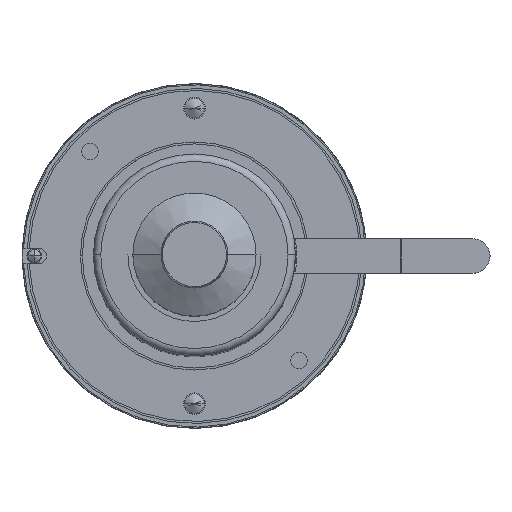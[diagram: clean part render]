
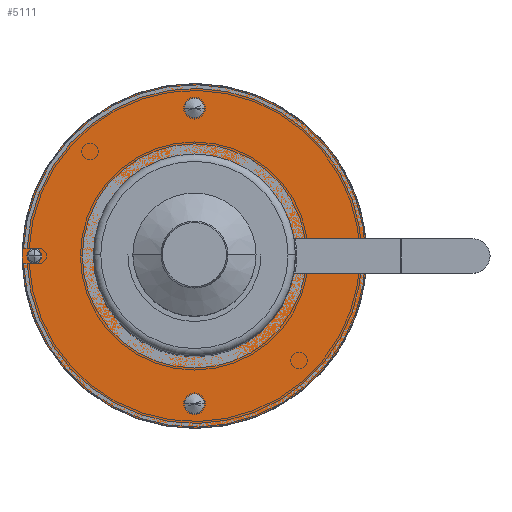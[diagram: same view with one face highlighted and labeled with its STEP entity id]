
A CAD part, top view. The second image highlights one B-rep face of the part: STEP entity #5111.
In plain terms, the highlighted planar face has unit normal (0, 0, 1).
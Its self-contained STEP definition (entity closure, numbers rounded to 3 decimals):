
#2644 = EDGE_CURVE ( 'NONE', #28923, #28746, #24981, .T. ) ;
#4021 = CIRCLE ( 'NONE', #16026, 4. ) ;
#4054 = CIRCLE ( 'NONE', #16045, 3. ) ;
#4058 = LINE ( 'NONE', #12005, #4060 ) ;
#4060 = VECTOR ( 'NONE', #12006, 1000. ) ;
#4075 = CIRCLE ( 'NONE', #16051, 41. ) ;
#4117 = CIRCLE ( 'NONE', #16078, 41. ) ;
#4137 = CIRCLE ( 'NONE', #16090, 70. ) ;
#4179 = CIRCLE ( 'NONE', #16107, 70. ) ;
#4203 = CIRCLE ( 'NONE', #16118, 4. ) ;
#4207 = LINE ( 'NONE', #12293, #4208 ) ;
#4208 = VECTOR ( 'NONE', #12294, 1000. ) ;
#4227 = CIRCLE ( 'NONE', #16129, 3. ) ;
#4513 = CARTESIAN_POINT ( 'NONE',  ( 4., 60., 32. ) ) ;
#5111 = ADVANCED_FACE ( 'NONE', ( #24768, #24769, #24770, #24771 ), #10345, .T. ) ;
#5395 = AXIS2_PLACEMENT_3D ( 'NONE', #10287, #10142, #10106 ) ;
#5960 = EDGE_CURVE ( 'NONE', #28849, #29051, #31834, .T. ) ;
#5966 = EDGE_CURVE ( 'NONE', #28746, #28923, #31841, .T. ) ;
#5990 = EDGE_CURVE ( 'NONE', #28827, #29244, #4021, .T. ) ;
#6013 = EDGE_CURVE ( 'NONE', #28812, #28829, #4054, .T. ) ;
#6017 = EDGE_CURVE ( 'NONE', #28849, #29081, #4058, .T. ) ;
#6026 = EDGE_CURVE ( 'NONE', #29187, #28813, #4075, .T. ) ;
#6058 = EDGE_CURVE ( 'NONE', #28813, #29081, #4117, .T. ) ;
#6075 = EDGE_CURVE ( 'NONE', #28818, #29024, #4137, .T. ) ;
#6124 = EDGE_CURVE ( 'NONE', #29051, #28818, #4179, .T. ) ;
#6144 = EDGE_CURVE ( 'NONE', #29244, #28827, #4203, .T. ) ;
#6147 = EDGE_CURVE ( 'NONE', #29187, #29024, #4207, .T. ) ;
#6159 = EDGE_CURVE ( 'NONE', #28829, #28812, #4227, .T. ) ;
#10106 = DIRECTION ( 'NONE',  ( 0., 1., 0. ) ) ;
#10142 = DIRECTION ( 'NONE',  ( 0., 0., 1. ) ) ;
#10287 = CARTESIAN_POINT ( 'NONE',  ( 0., 25., 32. ) ) ;
#10345 = PLANE ( 'NONE',  #5395 ) ;
#11860 = CARTESIAN_POINT ( 'NONE',  ( 0., 0., 32. ) ) ;
#11861 = DIRECTION ( 'NONE',  ( 0., 0., 1. ) ) ;
#11862 = DIRECTION ( 'NONE',  ( 0., 1., 0. ) ) ;
#11874 = CARTESIAN_POINT ( 'NONE',  ( 0., -60., 32. ) ) ;
#11875 = DIRECTION ( 'NONE',  ( 0., 0., 1. ) ) ;
#11876 = DIRECTION ( 'NONE',  ( -1., 0., 0. ) ) ;
#11935 = CARTESIAN_POINT ( 'NONE',  ( 0., 60., 32. ) ) ;
#11936 = DIRECTION ( 'NONE',  ( 0., 0., -1. ) ) ;
#11937 = DIRECTION ( 'NONE',  ( -1., 0., 0. ) ) ;
#11994 = CARTESIAN_POINT ( 'NONE',  ( -65., 0., 32. ) ) ;
#11995 = DIRECTION ( 'NONE',  ( 0., 0., 1. ) ) ;
#11996 = DIRECTION ( 'NONE',  ( 1., 0., 0. ) ) ;
#12005 = CARTESIAN_POINT ( 'NONE',  ( 0., 7., 32. ) ) ;
#12006 = DIRECTION ( 'NONE',  ( -1., 0., 0. ) ) ;
#12026 = CARTESIAN_POINT ( 'NONE',  ( 0., 0., 32. ) ) ;
#12027 = DIRECTION ( 'NONE',  ( 0., 0., -1. ) ) ;
#12028 = DIRECTION ( 'NONE',  ( -1., 0., 0. ) ) ;
#12122 = CARTESIAN_POINT ( 'NONE',  ( 0., 0., 32. ) ) ;
#12123 = DIRECTION ( 'NONE',  ( 0., 0., -1. ) ) ;
#12124 = DIRECTION ( 'NONE',  ( -1., 0., 0. ) ) ;
#12158 = CARTESIAN_POINT ( 'NONE',  ( 0., 0., 32. ) ) ;
#12159 = DIRECTION ( 'NONE',  ( 0., 0., 1. ) ) ;
#12160 = DIRECTION ( 'NONE',  ( 0., 1., 0. ) ) ;
#12241 = CARTESIAN_POINT ( 'NONE',  ( 0., 0., 32. ) ) ;
#12242 = DIRECTION ( 'NONE',  ( 0., 0., 1. ) ) ;
#12243 = DIRECTION ( 'NONE',  ( 0., 1., 0. ) ) ;
#12285 = CARTESIAN_POINT ( 'NONE',  ( 0., 60., 32. ) ) ;
#12286 = DIRECTION ( 'NONE',  ( 0., 0., -1. ) ) ;
#12287 = DIRECTION ( 'NONE',  ( -1., 0., 0. ) ) ;
#12293 = CARTESIAN_POINT ( 'NONE',  ( 0., -7., 32. ) ) ;
#12294 = DIRECTION ( 'NONE',  ( 1., 0., 0. ) ) ;
#12321 = CARTESIAN_POINT ( 'NONE',  ( -65., 0., 32. ) ) ;
#12322 = DIRECTION ( 'NONE',  ( 0., 0., 1. ) ) ;
#12323 = DIRECTION ( 'NONE',  ( 1., 0., 0. ) ) ;
#16011 = AXIS2_PLACEMENT_3D ( 'NONE', #11860, #11861, #11862 ) ;
#16020 = AXIS2_PLACEMENT_3D ( 'NONE', #11874, #11875, #11876 ) ;
#16026 = AXIS2_PLACEMENT_3D ( 'NONE', #11935, #11936, #11937 ) ;
#16045 = AXIS2_PLACEMENT_3D ( 'NONE', #11994, #11995, #11996 ) ;
#16051 = AXIS2_PLACEMENT_3D ( 'NONE', #12026, #12027, #12028 ) ;
#16078 = AXIS2_PLACEMENT_3D ( 'NONE', #12122, #12123, #12124 ) ;
#16090 = AXIS2_PLACEMENT_3D ( 'NONE', #12158, #12159, #12160 ) ;
#16107 = AXIS2_PLACEMENT_3D ( 'NONE', #12241, #12242, #12243 ) ;
#16118 = AXIS2_PLACEMENT_3D ( 'NONE', #12285, #12286, #12287 ) ;
#16129 = AXIS2_PLACEMENT_3D ( 'NONE', #12321, #12322, #12323 ) ;
#21009 = AXIS2_PLACEMENT_3D ( 'NONE', #30199, #30300, #30220 ) ;
#22086 = EDGE_LOOP ( 'NONE', ( #26714, #26715 ) ) ;
#22109 = EDGE_LOOP ( 'NONE', ( #26684, #26685, #26686, #26687, #26688, #26689, #26690 ) ) ;
#22122 = EDGE_LOOP ( 'NONE', ( #26691, #26692 ) ) ;
#22124 = EDGE_LOOP ( 'NONE', ( #26693, #26694 ) ) ;
#24768 = FACE_BOUND ( 'NONE', #22086, .T. ) ;
#24769 = FACE_OUTER_BOUND ( 'NONE', #22109, .T. ) ;
#24770 = FACE_BOUND ( 'NONE', #22122, .T. ) ;
#24771 = FACE_BOUND ( 'NONE', #22124, .T. ) ;
#24981 = CIRCLE ( 'NONE', #21009, 4. ) ;
#26684 = ORIENTED_EDGE ( 'NONE', *, *, #6017, .F. ) ;
#26685 = ORIENTED_EDGE ( 'NONE', *, *, #5960, .T. ) ;
#26686 = ORIENTED_EDGE ( 'NONE', *, *, #6124, .T. ) ;
#26687 = ORIENTED_EDGE ( 'NONE', *, *, #6075, .T. ) ;
#26688 = ORIENTED_EDGE ( 'NONE', *, *, #6147, .F. ) ;
#26689 = ORIENTED_EDGE ( 'NONE', *, *, #6026, .T. ) ;
#26690 = ORIENTED_EDGE ( 'NONE', *, *, #6058, .T. ) ;
#26691 = ORIENTED_EDGE ( 'NONE', *, *, #6159, .F. ) ;
#26692 = ORIENTED_EDGE ( 'NONE', *, *, #6013, .F. ) ;
#26693 = ORIENTED_EDGE ( 'NONE', *, *, #5966, .F. ) ;
#26694 = ORIENTED_EDGE ( 'NONE', *, *, #2644, .F. ) ;
#26714 = ORIENTED_EDGE ( 'NONE', *, *, #5990, .T. ) ;
#26715 = ORIENTED_EDGE ( 'NONE', *, *, #6144, .T. ) ;
#27669 = CARTESIAN_POINT ( 'NONE',  ( -4., -60., 32. ) ) ;
#27730 = CARTESIAN_POINT ( 'NONE',  ( -68., 0., 32. ) ) ;
#27731 = CARTESIAN_POINT ( 'NONE',  ( -41., 0., 32. ) ) ;
#27734 = CARTESIAN_POINT ( 'NONE',  ( 0., -70., 32. ) ) ;
#27743 = CARTESIAN_POINT ( 'NONE',  ( -4., 60., 32. ) ) ;
#27745 = CARTESIAN_POINT ( 'NONE',  ( -62., 0., 32. ) ) ;
#27762 = CARTESIAN_POINT ( 'NONE',  ( 69.649, 7., 32. ) ) ;
#27818 = CARTESIAN_POINT ( 'NONE',  ( 4., -60., 32. ) ) ;
#27891 = CARTESIAN_POINT ( 'NONE',  ( 69.649, -7., 32. ) ) ;
#27910 = CARTESIAN_POINT ( 'NONE',  ( 0., 70., 32. ) ) ;
#27936 = CARTESIAN_POINT ( 'NONE',  ( 40.398, 7., 32. ) ) ;
#28000 = CARTESIAN_POINT ( 'NONE',  ( 40.398, -7., 32. ) ) ;
#28746 = VERTEX_POINT ( 'NONE', #27669 ) ;
#28812 = VERTEX_POINT ( 'NONE', #27730 ) ;
#28813 = VERTEX_POINT ( 'NONE', #27731 ) ;
#28818 = VERTEX_POINT ( 'NONE', #27734 ) ;
#28827 = VERTEX_POINT ( 'NONE', #27743 ) ;
#28829 = VERTEX_POINT ( 'NONE', #27745 ) ;
#28849 = VERTEX_POINT ( 'NONE', #27762 ) ;
#28923 = VERTEX_POINT ( 'NONE', #27818 ) ;
#29024 = VERTEX_POINT ( 'NONE', #27891 ) ;
#29051 = VERTEX_POINT ( 'NONE', #27910 ) ;
#29081 = VERTEX_POINT ( 'NONE', #27936 ) ;
#29187 = VERTEX_POINT ( 'NONE', #28000 ) ;
#29244 = VERTEX_POINT ( 'NONE', #4513 ) ;
#30199 = CARTESIAN_POINT ( 'NONE',  ( 0., -60., 32. ) ) ;
#30220 = DIRECTION ( 'NONE',  ( -1., 0., 0. ) ) ;
#30300 = DIRECTION ( 'NONE',  ( 0., 0., 1. ) ) ;
#31834 = CIRCLE ( 'NONE', #16011, 70. ) ;
#31841 = CIRCLE ( 'NONE', #16020, 4. ) ;
